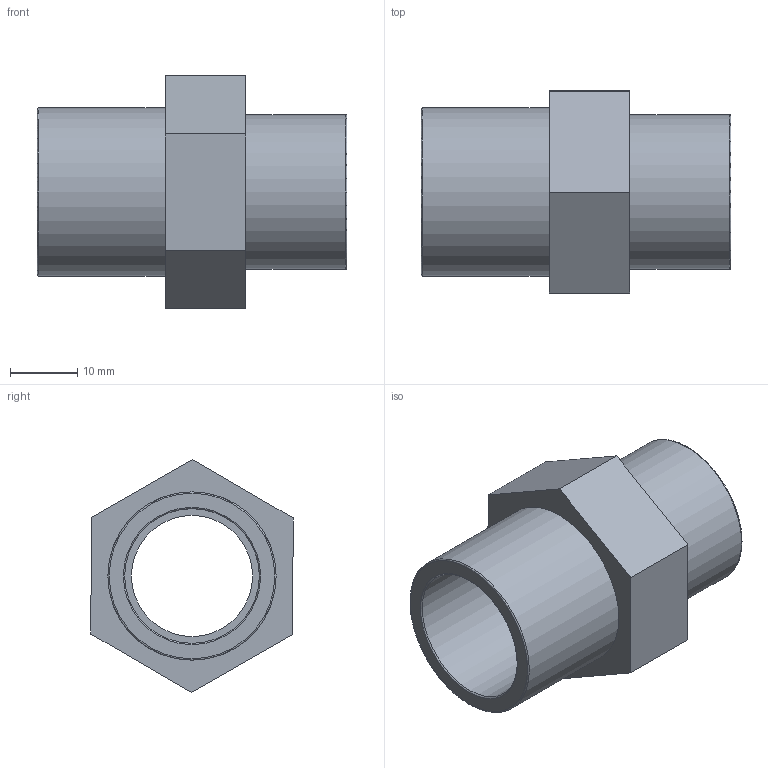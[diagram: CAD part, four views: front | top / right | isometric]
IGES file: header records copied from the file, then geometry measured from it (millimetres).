
Global section: file name: 050202025005.ipt; native system: Autodesk Inventor 2015; preprocessor: unknown; author: KIM; date: 20171207.164343; units: millimetre
Bounding box: 46 x 30.05 x 34.64 mm (x, y, z)
Volume: 11367.2 mm3; surface area: 7645.5 mm2
Topology: 1 solids, 1 shells, 21 faces, 55 edges, 40 vertices
Faces by surface type: plane 12, revolution 7, cylinder 2
Full cylindrical faces by diameter (mm): 23 x1, 25 x1
